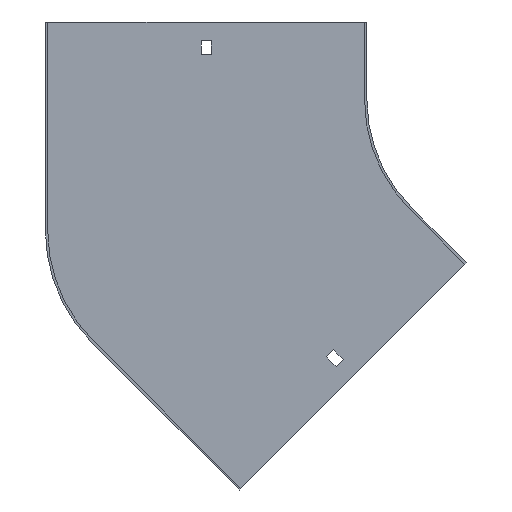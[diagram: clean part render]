
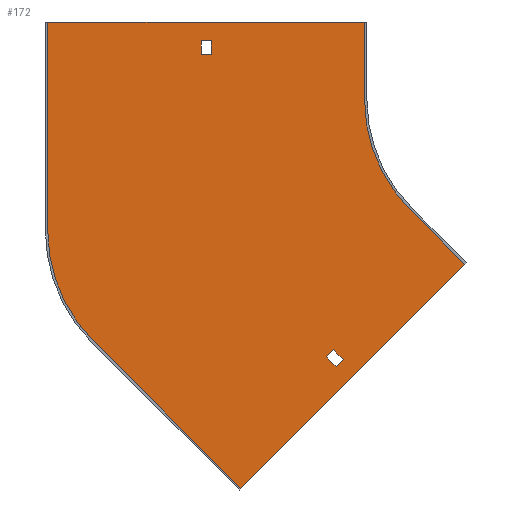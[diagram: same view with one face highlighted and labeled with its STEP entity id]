
A CAD part, front view. The second image highlights one B-rep face of the part: STEP entity #172.
In plain terms, the highlighted planar face has unit normal (0, -1, 0).
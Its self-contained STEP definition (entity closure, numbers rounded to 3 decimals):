
#5 = LINE ( 'NONE', #822, #589 ) ;
#7 = VERTEX_POINT ( 'NONE', #768 ) ;
#8 = CARTESIAN_POINT ( 'NONE',  ( -113.667, -1.5, -167.408 ) ) ;
#10 = CIRCLE ( 'NONE', #126, 100. ) ;
#16 = EDGE_CURVE ( 'NONE', #644, #754, #306, .T. ) ;
#23 = CARTESIAN_POINT ( 'NONE',  ( 0., -1.5, 0. ) ) ;
#54 = DIRECTION ( 'NONE',  ( -0.707, 0., -0.707 ) ) ;
#59 = CARTESIAN_POINT ( 'NONE',  ( -70.711, -1.5, -70.711 ) ) ;
#62 = VECTOR ( 'NONE', #631, 1000. ) ;
#65 = EDGE_CURVE ( 'NONE', #630, #495, #590, .T. ) ;
#69 = LINE ( 'NONE', #738, #428 ) ;
#70 = EDGE_CURVE ( 'NONE', #204, #644, #642, .T. ) ;
#72 = ORIENTED_EDGE ( 'NONE', *, *, #16, .F. ) ;
#74 = FACE_OUTER_BOUND ( 'NONE', #79, .T. ) ;
#79 = EDGE_LOOP ( 'NONE', ( #277, #787, #72, #681, #404, #200, #560, #366 ) ) ;
#85 = VERTEX_POINT ( 'NONE', #245 ) ;
#91 = VERTEX_POINT ( 'NONE', #650 ) ;
#98 = DIRECTION ( 'NONE',  ( -1., 0., 0. ) ) ;
#105 = CARTESIAN_POINT ( 'NONE',  ( -70.711, -1.5, -70.711 ) ) ;
#111 = EDGE_CURVE ( 'NONE', #754, #91, #654, .T. ) ;
#113 = DIRECTION ( 'NONE',  ( -0.707, 0., 0.707 ) ) ;
#126 = AXIS2_PLACEMENT_3D ( 'NONE', #390, #139, #748 ) ;
#128 = EDGE_CURVE ( 'NONE', #354, #7, #382, .T. ) ;
#135 = VERTEX_POINT ( 'NONE', #374 ) ;
#139 = DIRECTION ( 'NONE',  ( 0., -1., 0. ) ) ;
#155 = ORIENTED_EDGE ( 'NONE', *, *, #725, .F. ) ;
#158 = EDGE_CURVE ( 'NONE', #814, #710, #311, .T. ) ;
#160 = ORIENTED_EDGE ( 'NONE', *, *, #226, .T. ) ;
#161 = ORIENTED_EDGE ( 'NONE', *, *, #518, .T. ) ;
#164 = ORIENTED_EDGE ( 'NONE', *, *, #158, .T. ) ;
#172 = ADVANCED_FACE ( 'NONE', ( #263, #74, #749 ), #553, .T. ) ;
#176 = DIRECTION ( 'NONE',  ( -0.707, 0., -0.707 ) ) ;
#179 = AXIS2_PLACEMENT_3D ( 'NONE', #23, #544, #467 ) ;
#182 = CARTESIAN_POINT ( 'NONE',  ( -304., -1.5, -84.5 ) ) ;
#184 = CARTESIAN_POINT ( 'NONE',  ( 20.506, -1.5, -20.506 ) ) ;
#189 = DIRECTION ( 'NONE',  ( 0., 0., -1. ) ) ;
#200 = ORIENTED_EDGE ( 'NONE', *, *, #128, .F. ) ;
#202 = CARTESIAN_POINT ( 'NONE',  ( -100., -1.5, 50. ) ) ;
#204 = VERTEX_POINT ( 'NONE', #335 ) ;
#208 = VECTOR ( 'NONE', #543, 1000. ) ;
#214 = CARTESIAN_POINT ( 'NONE',  ( -100., -1.5, 50. ) ) ;
#226 = EDGE_CURVE ( 'NONE', #806, #135, #5, .T. ) ;
#234 = VERTEX_POINT ( 'NONE', #214 ) ;
#245 = CARTESIAN_POINT ( 'NONE',  ( -124.628, -1.5, -165.64 ) ) ;
#254 = CARTESIAN_POINT ( 'NONE',  ( 0., -1.5, 38. ) ) ;
#263 = FACE_BOUND ( 'NONE', #557, .T. ) ;
#264 = ORIENTED_EDGE ( 'NONE', *, *, #796, .T. ) ;
#277 = ORIENTED_EDGE ( 'NONE', *, *, #655, .F. ) ;
#278 = EDGE_LOOP ( 'NONE', ( #161, #160, #264, #164 ) ) ;
#285 = CARTESIAN_POINT ( 'NONE',  ( -205.25, -1.5, 38. ) ) ;
#286 = VECTOR ( 'NONE', #113, 1000. ) ;
#306 = CIRCLE ( 'NONE', #759, 100. ) ;
#311 = LINE ( 'NONE', #851, #818 ) ;
#324 = DIRECTION ( 'NONE',  ( -0.707, 0., 0.707 ) ) ;
#326 = CARTESIAN_POINT ( 'NONE',  ( -274.711, -1.5, -155.21 ) ) ;
#332 = VECTOR ( 'NONE', #176, 1000. ) ;
#335 = CARTESIAN_POINT ( 'NONE',  ( -179.605, -1.5, -250.316 ) ) ;
#337 = DIRECTION ( 'NONE',  ( 0.707, 0., -0.707 ) ) ;
#354 = VERTEX_POINT ( 'NONE', #105 ) ;
#362 = DIRECTION ( 'NONE',  ( 0., 1., 0. ) ) ;
#366 = ORIENTED_EDGE ( 'NONE', *, *, #670, .F. ) ;
#374 = CARTESIAN_POINT ( 'NONE',  ( -198.75, -1.5, 29. ) ) ;
#375 = VECTOR ( 'NONE', #324, 1000. ) ;
#382 = LINE ( 'NONE', #59, #386 ) ;
#384 = CARTESIAN_POINT ( 'NONE',  ( -120.031, -1.5, -161.044 ) ) ;
#386 = VECTOR ( 'NONE', #795, 1000. ) ;
#390 = CARTESIAN_POINT ( 'NONE',  ( 0., -1.5, 0. ) ) ;
#404 = ORIENTED_EDGE ( 'NONE', *, *, #498, .F. ) ;
#414 = VECTOR ( 'NONE', #189, 1000. ) ;
#428 = VECTOR ( 'NONE', #337, 1000. ) ;
#449 = DIRECTION ( 'NONE',  ( 0., 0., 1. ) ) ;
#451 = LINE ( 'NONE', #184, #646 ) ;
#456 = CARTESIAN_POINT ( 'NONE',  ( -100., -1.5, 0. ) ) ;
#462 = LINE ( 'NONE', #202, #414 ) ;
#467 = DIRECTION ( 'NONE',  ( 0., 0., -1. ) ) ;
#470 = EDGE_CURVE ( 'NONE', #495, #85, #451, .T. ) ;
#473 = VERTEX_POINT ( 'NONE', #580 ) ;
#493 = CARTESIAN_POINT ( 'NONE',  ( 0., -1.5, 29. ) ) ;
#495 = VERTEX_POINT ( 'NONE', #384 ) ;
#498 = EDGE_CURVE ( 'NONE', #7, #204, #863, .T. ) ;
#502 = CARTESIAN_POINT ( 'NONE',  ( -198.75, -1.5, 38. ) ) ;
#518 = EDGE_CURVE ( 'NONE', #710, #806, #850, .T. ) ;
#524 = CARTESIAN_POINT ( 'NONE',  ( -34.295, -1.5, -105.005 ) ) ;
#543 = DIRECTION ( 'NONE',  ( 1., 0., 0. ) ) ;
#544 = DIRECTION ( 'NONE',  ( 0., -1., 0. ) ) ;
#553 = PLANE ( 'NONE',  #179 ) ;
#557 = EDGE_LOOP ( 'NONE', ( #765, #155, #843, #747 ) ) ;
#560 = ORIENTED_EDGE ( 'NONE', *, *, #623, .F. ) ;
#575 = DIRECTION ( 'NONE',  ( 1., 0., 0. ) ) ;
#580 = CARTESIAN_POINT ( 'NONE',  ( -118.264, -1.5, -172.004 ) ) ;
#589 = VECTOR ( 'NONE', #678, 1000. ) ;
#590 = LINE ( 'NONE', #793, #375 ) ;
#600 = DIRECTION ( 'NONE',  ( 0., 0., 1. ) ) ;
#623 = EDGE_CURVE ( 'NONE', #697, #354, #10, .T. ) ;
#629 = EDGE_CURVE ( 'NONE', #85, #473, #69, .T. ) ;
#630 = VERTEX_POINT ( 'NONE', #8 ) ;
#631 = DIRECTION ( 'NONE',  ( 0.707, 0., 0.707 ) ) ;
#642 = LINE ( 'NONE', #720, #286 ) ;
#644 = VERTEX_POINT ( 'NONE', #326 ) ;
#646 = VECTOR ( 'NONE', #54, 1000. ) ;
#650 = CARTESIAN_POINT ( 'NONE',  ( -304., -1.5, 50. ) ) ;
#654 = LINE ( 'NONE', #182, #731 ) ;
#655 = EDGE_CURVE ( 'NONE', #91, #234, #807, .T. ) ;
#664 = CARTESIAN_POINT ( 'NONE',  ( -305.5, -1.5, 50. ) ) ;
#670 = EDGE_CURVE ( 'NONE', #234, #697, #462, .T. ) ;
#678 = DIRECTION ( 'NONE',  ( 0., 0., -1. ) ) ;
#681 = ORIENTED_EDGE ( 'NONE', *, *, #70, .F. ) ;
#697 = VERTEX_POINT ( 'NONE', #456 ) ;
#698 = CARTESIAN_POINT ( 'NONE',  ( -205.25, -1.5, 29. ) ) ;
#702 = CARTESIAN_POINT ( 'NONE',  ( -204., -1.5, -84.5 ) ) ;
#705 = VECTOR ( 'NONE', #98, 1000. ) ;
#708 = LINE ( 'NONE', #715, #62 ) ;
#710 = VERTEX_POINT ( 'NONE', #285 ) ;
#715 = CARTESIAN_POINT ( 'NONE',  ( 26.87, -1.5, -26.87 ) ) ;
#720 = CARTESIAN_POINT ( 'NONE',  ( -179.605, -1.5, -250.316 ) ) ;
#725 = EDGE_CURVE ( 'NONE', #473, #630, #708, .T. ) ;
#731 = VECTOR ( 'NONE', #449, 1000. ) ;
#733 = VECTOR ( 'NONE', #575, 1000. ) ;
#738 = CARTESIAN_POINT ( 'NONE',  ( -145.134, -1.5, -145.134 ) ) ;
#747 = ORIENTED_EDGE ( 'NONE', *, *, #470, .F. ) ;
#748 = DIRECTION ( 'NONE',  ( 0., 0., -1. ) ) ;
#749 = FACE_BOUND ( 'NONE', #278, .T. ) ;
#754 = VERTEX_POINT ( 'NONE', #774 ) ;
#759 = AXIS2_PLACEMENT_3D ( 'NONE', #702, #362, #839 ) ;
#765 = ORIENTED_EDGE ( 'NONE', *, *, #65, .F. ) ;
#768 = CARTESIAN_POINT ( 'NONE',  ( -35.355, -1.5, -106.066 ) ) ;
#774 = CARTESIAN_POINT ( 'NONE',  ( -304., -1.5, -84.5 ) ) ;
#787 = ORIENTED_EDGE ( 'NONE', *, *, #111, .F. ) ;
#793 = CARTESIAN_POINT ( 'NONE',  ( -140.537, -1.5, -140.537 ) ) ;
#795 = DIRECTION ( 'NONE',  ( 0.707, 0., -0.707 ) ) ;
#796 = EDGE_CURVE ( 'NONE', #135, #814, #840, .T. ) ;
#806 = VERTEX_POINT ( 'NONE', #502 ) ;
#807 = LINE ( 'NONE', #664, #208 ) ;
#814 = VERTEX_POINT ( 'NONE', #698 ) ;
#818 = VECTOR ( 'NONE', #600, 1000. ) ;
#822 = CARTESIAN_POINT ( 'NONE',  ( -198.75, -1.5, 0. ) ) ;
#839 = DIRECTION ( 'NONE',  ( 0., 0., -1. ) ) ;
#840 = LINE ( 'NONE', #493, #705 ) ;
#843 = ORIENTED_EDGE ( 'NONE', *, *, #629, .F. ) ;
#850 = LINE ( 'NONE', #254, #733 ) ;
#851 = CARTESIAN_POINT ( 'NONE',  ( -205.25, -1.5, 0. ) ) ;
#863 = LINE ( 'NONE', #524, #332 ) ;
